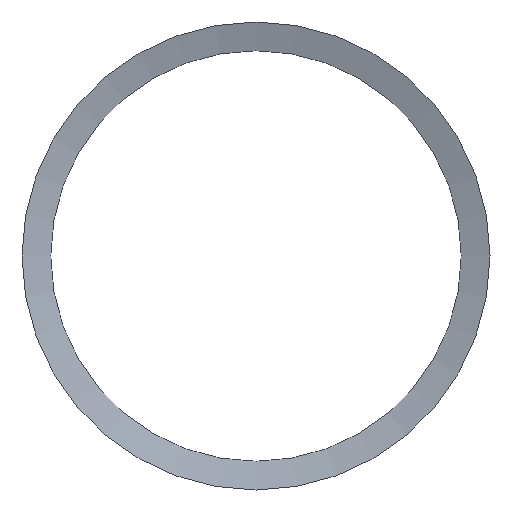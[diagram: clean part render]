
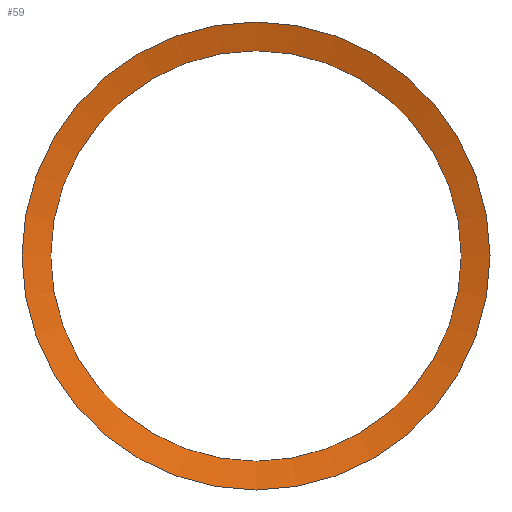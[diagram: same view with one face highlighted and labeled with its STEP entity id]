
A CAD part, front view. The second image highlights one B-rep face of the part: STEP entity #59.
In plain terms, the highlighted conical face has half-angle 75 degrees and reference radius 26.101 mm.
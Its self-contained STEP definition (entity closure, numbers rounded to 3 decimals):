
#13=CONICAL_SURFACE($,#69,26.101,75.);
#16=FACE_BOUND($,#27,.T.);
#20=FACE_OUTER_BOUND($,#26,.T.);
#26=EDGE_LOOP($,(#46));
#27=EDGE_LOOP($,(#47));
#31=CIRCLE($,#66,25.35);
#33=CIRCLE($,#70,28.9);
#35=VERTEX_POINT($,#94);
#37=VERTEX_POINT($,#100);
#39=EDGE_CURVE($,#35,#35,#31,.T.);
#41=EDGE_CURVE($,#37,#37,#33,.T.);
#46=ORIENTED_EDGE($,*,*,#39,.T.);
#47=ORIENTED_EDGE($,*,*,#41,.F.);
#59=ADVANCED_FACE($,(#20,#16),#13,.F.);
#66=AXIS2_PLACEMENT_3D($,#95,#78,#79);
#69=AXIS2_PLACEMENT_3D($,#99,#84,#85);
#70=AXIS2_PLACEMENT_3D($,#101,#86,#87);
#78=DIRECTION('center_axis',(0.,1.,0.));
#79=DIRECTION('ref_axis',(1.,0.,0.));
#84=DIRECTION('center_axis',(0.,-1.,0.));
#85=DIRECTION('ref_axis',(-1.,0.,0.));
#86=DIRECTION('center_axis',(0.,1.,0.));
#87=DIRECTION('ref_axis',(-1.,0.,0.));
#94=CARTESIAN_POINT('',(-25.35,-0.549,0.));
#95=CARTESIAN_POINT('Origin',(0.,-0.549,0.));
#99=CARTESIAN_POINT('Origin',(0.,-0.75,0.));
#100=CARTESIAN_POINT('',(-28.9,-1.5,0.));
#101=CARTESIAN_POINT('Origin',(0.,-1.5,0.));
